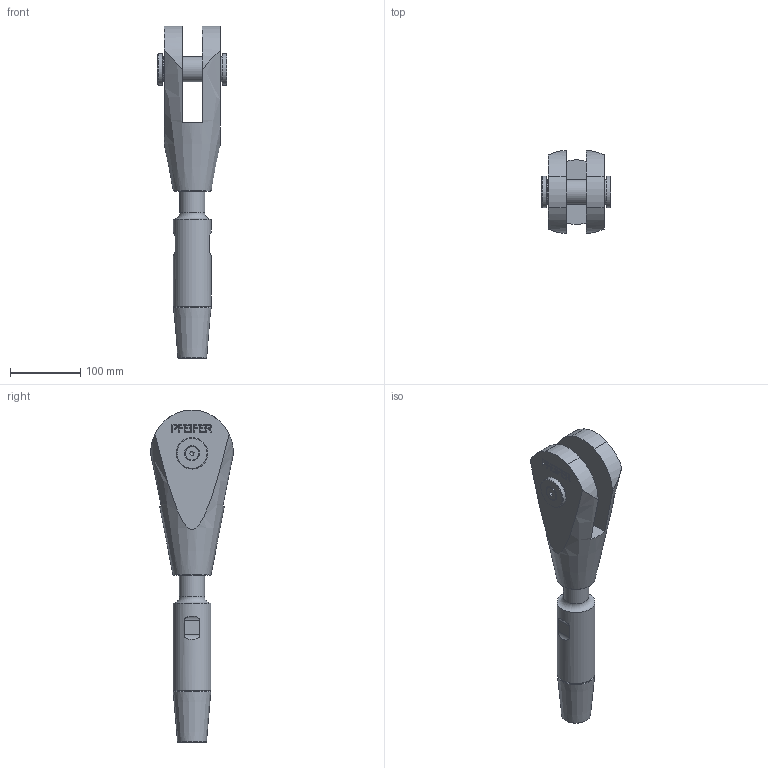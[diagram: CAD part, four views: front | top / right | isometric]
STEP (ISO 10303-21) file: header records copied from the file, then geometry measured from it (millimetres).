
FILE_DESCRIPTION(/* description */ (''),/* implementation_level */ '2;1');
FILE_NAME(/* name */ 'G:\Engineering\700 CAD\Internet-PX-1-step-igs-dxf\520-GAK-ADA-Arbeitsdateien\520-036-GAK-ADA.stp',/* time_stamp */ '2020-07-03T13:09:17+02:00',/* author */ ('schwarz'),/* organization */ (''),/* preprocessor_version */ 'ST-DEVELOPER v16.1',/* originating_system */ 'Autodesk Inventor 2016',/* authorisation */ '');
FILE_SCHEMA (('AUTOMOTIVE_DESIGN { 1 0 10303 214 3 1 1 }'));
Length unit declared in the file: centimetre
Products named in the file (1): 520-036-GAK-ADA-Kunde
Bounding box: 99.75 x 118.26 x 473.8 mm (x, y, z)
Volume: 1493545.5 mm3; surface area: 158757.8 mm2
Topology: 2 solids, 3 shells, 197 faces, 508 edges, 337 vertices
Faces by surface type: plane 139, cylinder 22, bspline 21, cone 14, torus 1
Full cylindrical faces by diameter (mm): 8.376 x1, 10 x1, 11 x1, 19.22 x1, 36 x2, 38 x1, 39 x2, 45 x2, 54 x1
Entity records: 6139 total; most frequent: CARTESIAN_POINT 1409, ORIENTED_EDGE 942, DIRECTION 808, EDGE_CURVE 471, LINE 356, VECTOR 356, VERTEX_POINT 327, EDGE_LOOP 248
